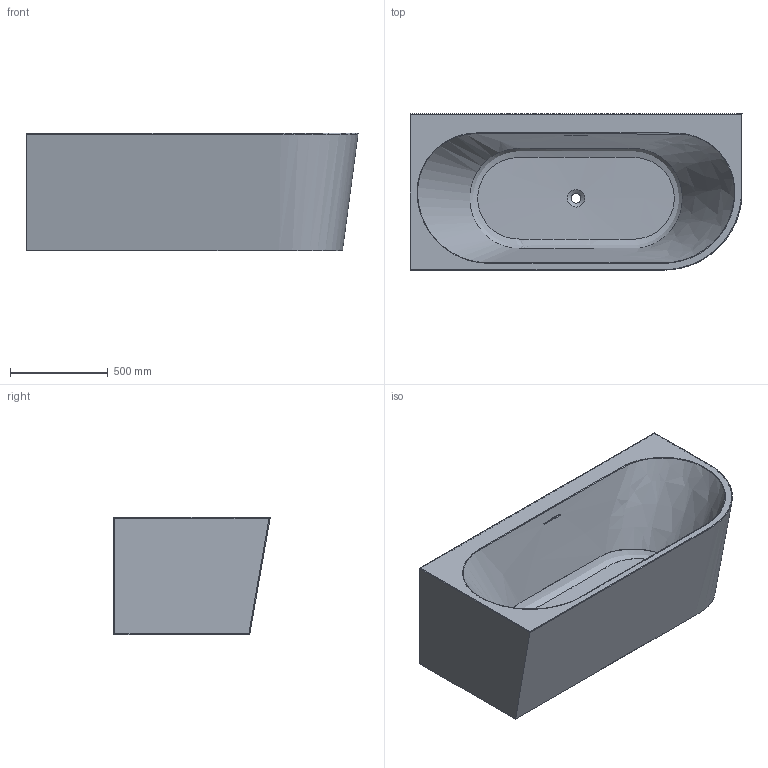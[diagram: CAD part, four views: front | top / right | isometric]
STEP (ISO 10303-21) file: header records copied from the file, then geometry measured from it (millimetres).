
FILE_DESCRIPTION(/* description */ (''),/* implementation_level */ '2;1');
FILE_NAME(/* name */ 'XA-193AR-1700.stp',/* time_stamp */ '2022-11-30T15:45:38+08:00',/* author */ (''),/* organization */ (''),/* preprocessor_version */ 'ST-DEVELOPER v16',/* originating_system */ 'SIEMENS PLM Software NX 10.0',/* authorisation */ '');
FILE_SCHEMA (('AP203_CONFIGURATION_CONTROLLED_3D_DESIGN_OF_MECHANICAL_PARTS_AND_ASSEMBLIES_MIM_LF { 1 0 10303 403 2 1 2}'));
Length unit declared in the file: millimetre
Products named in the file (1): Admi11DC8F10544c
Bounding box: 1699.57 x 799.43 x 600 mm (x, y, z)
Volume: 25096594.8 mm3; surface area: 10574222.8 mm2
Topology: 1 solids, 1 shells, 32 faces, 77 edges, 50 vertices
Faces by surface type: plane 13, bspline 9, cylinder 6, cone 4
Full cylindrical faces by diameter (mm): 50 x1, 60 x1
Entity records: 6166 total; most frequent: CARTESIAN_POINT 5479, ORIENTED_EDGE 120, DIRECTION 90, EDGE_CURVE 60, EDGE_LOOP 50, VERTEX_POINT 44, FACE_BOUND 34, AXIS2_PLACEMENT_3D 33
